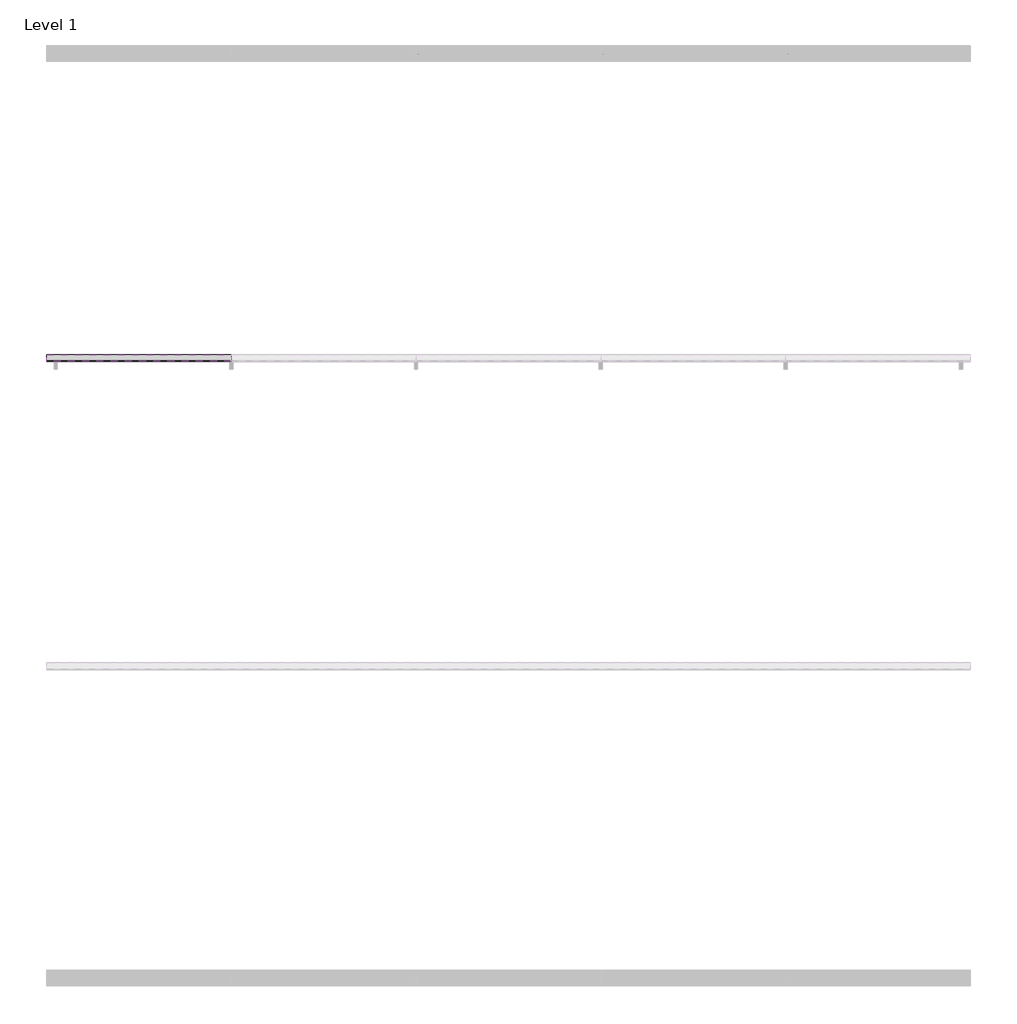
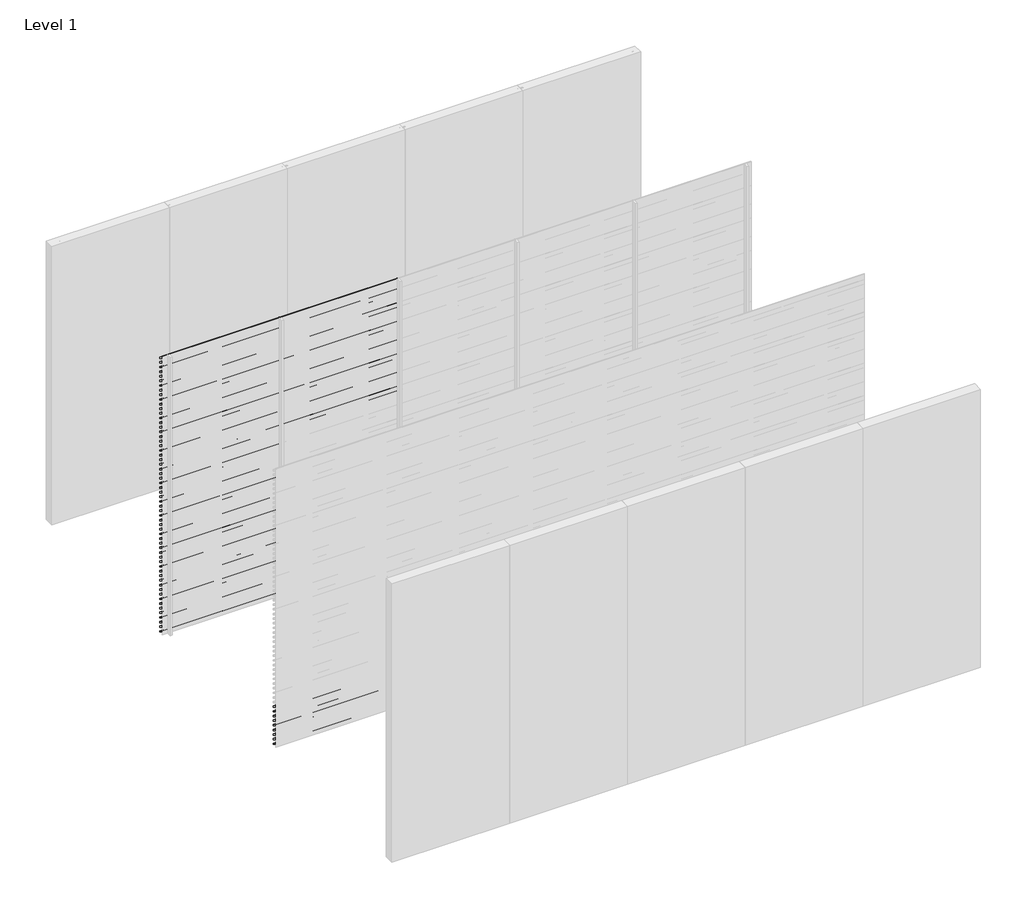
# One storey, part 10 of 16: 94 proxies.
"""IFC4 building model written with IfcOpenShell, lengths in millimetres."""

from ifc_helpers import new_model, si_unit, frame, origin, place, context, project, spatial, polyline, outline, extrude, element, save

model = new_model("IFC4")

# Units and contexts
model_context = context("Model", 3, world=origin())
ifc_project = project(units=[si_unit("LENGTHUNIT", "METRE", prefix="MILLI")], contexts=[model_context])

# Site, building, storey
site = spatial("IfcSite", under=ifc_project)
building = spatial("IfcBuilding", under=site)
storey = spatial("IfcBuildingStorey", under=building, Name="Level 1", Elevation=0.0)

# Proxies
placement = place(None, origin())
element("IfcBuildingElementProxy", 1, Name="Wall Sweeps", at=placement, inside=storey, context=model_context, shape_type="SweptSolid", body=[
    extrude(outline(polyline([(-5995.0, 3000.0), (-5995.0, 2989.6352854), (-5954.0, 2965.0), (-5954.0, 2950.0), (-5997.0, 2975.8370066), (-5997.0, 3000.0), (-5995.0, 3000.0)])), frame((0.0, 0.0, 0.0), z_axis=(1.0, 0.0, 0.0), x_axis=(0.0, 1.0, 0.0)), (0.0, 0.0, 1.0), 1200.0),
])
element("IfcBuildingElementProxy", 2, Name="Wall Sweeps", at=placement, inside=storey, context=model_context, shape_type="SweptSolid", body=[
    extrude(outline(polyline([(-5995.0, 2950.0), (-5995.0, 2939.6352854), (-5954.0, 2915.0), (-5954.0, 2900.0), (-5997.0, 2925.8370066), (-5997.0, 2950.0), (-5995.0, 2950.0)])), frame((0.0, 0.0, 0.0), z_axis=(1.0, 0.0, 0.0), x_axis=(0.0, 1.0, 0.0)), (0.0, 0.0, 1.0), 1200.0),
])
element("IfcBuildingElementProxy", 3, Name="Wall Sweeps", at=placement, inside=storey, context=model_context, shape_type="SweptSolid", body=[
    extrude(outline(polyline([(-5995.0, 2900.0), (-5995.0, 2889.6352854), (-5954.0, 2865.0), (-5954.0, 2850.0), (-5997.0, 2875.8370066), (-5997.0, 2900.0), (-5995.0, 2900.0)])), frame((0.0, 0.0, 0.0), z_axis=(1.0, 0.0, 0.0), x_axis=(0.0, 1.0, 0.0)), (0.0, 0.0, 1.0), 1200.0),
])
element("IfcBuildingElementProxy", 4, Name="Wall Sweeps", at=placement, inside=storey, context=model_context, shape_type="SweptSolid", body=[
    extrude(outline(polyline([(-5995.0, 2850.0), (-5995.0, 2839.6352854), (-5954.0, 2815.0), (-5954.0, 2800.0), (-5997.0, 2825.8370066), (-5997.0, 2850.0), (-5995.0, 2850.0)])), frame((0.0, 0.0, 0.0), z_axis=(1.0, 0.0, 0.0), x_axis=(0.0, 1.0, 0.0)), (0.0, 0.0, 1.0), 1200.0),
])
element("IfcBuildingElementProxy", 5, Name="Wall Sweeps", at=placement, inside=storey, context=model_context, shape_type="SweptSolid", body=[
    extrude(outline(polyline([(-5995.0, 2800.0), (-5995.0, 2789.6352854), (-5954.0, 2765.0), (-5954.0, 2750.0), (-5997.0, 2775.8370066), (-5997.0, 2800.0), (-5995.0, 2800.0)])), frame((0.0, 0.0, 0.0), z_axis=(1.0, 0.0, 0.0), x_axis=(0.0, 1.0, 0.0)), (0.0, 0.0, 1.0), 1200.0),
])
element("IfcBuildingElementProxy", 6, Name="Wall Sweeps", at=placement, inside=storey, context=model_context, shape_type="SweptSolid", body=[
    extrude(outline(polyline([(-5995.0, 2750.0), (-5995.0, 2739.6352854), (-5954.0, 2715.0), (-5954.0, 2700.0), (-5997.0, 2725.8370066), (-5997.0, 2750.0), (-5995.0, 2750.0)])), frame((0.0, 0.0, 0.0), z_axis=(1.0, 0.0, 0.0), x_axis=(0.0, 1.0, 0.0)), (0.0, 0.0, 1.0), 1200.0),
])
element("IfcBuildingElementProxy", 7, Name="Wall Sweeps", at=placement, inside=storey, context=model_context, shape_type="SweptSolid", body=[
    extrude(outline(polyline([(-5995.0, 2700.0), (-5995.0, 2689.6352854), (-5954.0, 2665.0), (-5954.0, 2650.0), (-5997.0, 2675.8370066), (-5997.0, 2700.0), (-5995.0, 2700.0)])), frame((0.0, 0.0, 0.0), z_axis=(1.0, 0.0, 0.0), x_axis=(0.0, 1.0, 0.0)), (0.0, 0.0, 1.0), 1200.0),
])
element("IfcBuildingElementProxy", 8, Name="Wall Sweeps", at=placement, inside=storey, context=model_context, shape_type="SweptSolid", body=[
    extrude(outline(polyline([(-5995.0, 2650.0), (-5995.0, 2639.6352854), (-5954.0, 2615.0), (-5954.0, 2600.0), (-5997.0, 2625.8370066), (-5997.0, 2650.0), (-5995.0, 2650.0)])), frame((0.0, 0.0, 0.0), z_axis=(1.0, 0.0, 0.0), x_axis=(0.0, 1.0, 0.0)), (0.0, 0.0, 1.0), 1200.0),
])
element("IfcBuildingElementProxy", 9, Name="Wall Sweeps", at=placement, inside=storey, context=model_context, shape_type="SweptSolid", body=[
    extrude(outline(polyline([(-5995.0, 2600.0), (-5995.0, 2589.6352854), (-5954.0, 2565.0), (-5954.0, 2550.0), (-5997.0, 2575.8370066), (-5997.0, 2600.0), (-5995.0, 2600.0)])), frame((0.0, 0.0, 0.0), z_axis=(1.0, 0.0, 0.0), x_axis=(0.0, 1.0, 0.0)), (0.0, 0.0, 1.0), 1200.0),
])
element("IfcBuildingElementProxy", 10, Name="Wall Sweeps", at=placement, inside=storey, context=model_context, shape_type="SweptSolid", body=[
    extrude(outline(polyline([(-5995.0, 2550.0), (-5995.0, 2539.6352854), (-5954.0, 2515.0), (-5954.0, 2500.0), (-5997.0, 2525.8370066), (-5997.0, 2550.0), (-5995.0, 2550.0)])), frame((0.0, 0.0, 0.0), z_axis=(1.0, 0.0, 0.0), x_axis=(0.0, 1.0, 0.0)), (0.0, 0.0, 1.0), 1200.0),
])
element("IfcBuildingElementProxy", 11, Name="Wall Sweeps", at=placement, inside=storey, context=model_context, shape_type="SweptSolid", body=[
    extrude(outline(polyline([(-5995.0, 2500.0), (-5995.0, 2489.6352854), (-5954.0, 2465.0), (-5954.0, 2450.0), (-5997.0, 2475.8370066), (-5997.0, 2500.0), (-5995.0, 2500.0)])), frame((0.0, 0.0, 0.0), z_axis=(1.0, 0.0, 0.0), x_axis=(0.0, 1.0, 0.0)), (0.0, 0.0, 1.0), 1200.0),
])
element("IfcBuildingElementProxy", 12, Name="Wall Sweeps", at=placement, inside=storey, context=model_context, shape_type="SweptSolid", body=[
    extrude(outline(polyline([(-5995.0, 2450.0), (-5995.0, 2439.6352854), (-5954.0, 2415.0), (-5954.0, 2400.0), (-5997.0, 2425.8370066), (-5997.0, 2450.0), (-5995.0, 2450.0)])), frame((0.0, 0.0, 0.0), z_axis=(1.0, 0.0, 0.0), x_axis=(0.0, 1.0, 0.0)), (0.0, 0.0, 1.0), 1200.0),
])
element("IfcBuildingElementProxy", 13, Name="Wall Sweeps", at=placement, inside=storey, context=model_context, shape_type="SweptSolid", body=[
    extrude(outline(polyline([(-5995.0, 2400.0), (-5995.0, 2389.6352854), (-5954.0, 2365.0), (-5954.0, 2350.0), (-5997.0, 2375.8370066), (-5997.0, 2400.0), (-5995.0, 2400.0)])), frame((0.0, 0.0, 0.0), z_axis=(1.0, 0.0, 0.0), x_axis=(0.0, 1.0, 0.0)), (0.0, 0.0, 1.0), 1200.0),
])
element("IfcBuildingElementProxy", 14, Name="Wall Sweeps", at=placement, inside=storey, context=model_context, shape_type="SweptSolid", body=[
    extrude(outline(polyline([(-5995.0, 2350.0), (-5995.0, 2339.6352854), (-5954.0, 2315.0), (-5954.0, 2300.0), (-5997.0, 2325.8370066), (-5997.0, 2350.0), (-5995.0, 2350.0)])), frame((0.0, 0.0, 0.0), z_axis=(1.0, 0.0, 0.0), x_axis=(0.0, 1.0, 0.0)), (0.0, 0.0, 1.0), 1200.0),
])
element("IfcBuildingElementProxy", 15, Name="Wall Sweeps", at=placement, inside=storey, context=model_context, shape_type="SweptSolid", body=[
    extrude(outline(polyline([(-5995.0, 2300.0), (-5995.0, 2289.6352854), (-5954.0, 2265.0), (-5954.0, 2250.0), (-5997.0, 2275.8370066), (-5997.0, 2300.0), (-5995.0, 2300.0)])), frame((0.0, 0.0, 0.0), z_axis=(1.0, 0.0, 0.0), x_axis=(0.0, 1.0, 0.0)), (0.0, 0.0, 1.0), 1200.0),
])
element("IfcBuildingElementProxy", 16, Name="Wall Sweeps", at=placement, inside=storey, context=model_context, shape_type="SweptSolid", body=[
    extrude(outline(polyline([(-5995.0, 2250.0), (-5995.0, 2239.6352854), (-5954.0, 2215.0), (-5954.0, 2200.0), (-5997.0, 2225.8370066), (-5997.0, 2250.0), (-5995.0, 2250.0)])), frame((0.0, 0.0, 0.0), z_axis=(1.0, 0.0, 0.0), x_axis=(0.0, 1.0, 0.0)), (0.0, 0.0, 1.0), 1200.0),
])
element("IfcBuildingElementProxy", 17, Name="Wall Sweeps", at=placement, inside=storey, context=model_context, shape_type="SweptSolid", body=[
    extrude(outline(polyline([(-5995.0, 2200.0), (-5995.0, 2189.6352854), (-5954.0, 2165.0), (-5954.0, 2150.0), (-5997.0, 2175.8370066), (-5997.0, 2200.0), (-5995.0, 2200.0)])), frame((0.0, 0.0, 0.0), z_axis=(1.0, 0.0, 0.0), x_axis=(0.0, 1.0, 0.0)), (0.0, 0.0, 1.0), 1200.0),
])
element("IfcBuildingElementProxy", 18, Name="Wall Sweeps", at=placement, inside=storey, context=model_context, shape_type="SweptSolid", body=[
    extrude(outline(polyline([(-5995.0, 2150.0), (-5995.0, 2139.6352854), (-5954.0, 2115.0), (-5954.0, 2100.0), (-5997.0, 2125.8370066), (-5997.0, 2150.0), (-5995.0, 2150.0)])), frame((0.0, 0.0, 0.0), z_axis=(1.0, 0.0, 0.0), x_axis=(0.0, 1.0, 0.0)), (0.0, 0.0, 1.0), 1200.0),
])
element("IfcBuildingElementProxy", 19, Name="Wall Sweeps", at=placement, inside=storey, context=model_context, shape_type="SweptSolid", body=[
    extrude(outline(polyline([(-5995.0, 2100.0), (-5995.0, 2089.6352854), (-5954.0, 2065.0), (-5954.0, 2050.0), (-5997.0, 2075.8370066), (-5997.0, 2100.0), (-5995.0, 2100.0)])), frame((0.0, 0.0, 0.0), z_axis=(1.0, 0.0, 0.0), x_axis=(0.0, 1.0, 0.0)), (0.0, 0.0, 1.0), 1200.0),
])
element("IfcBuildingElementProxy", 20, Name="Wall Sweeps", at=placement, inside=storey, context=model_context, shape_type="SweptSolid", body=[
    extrude(outline(polyline([(-5995.0, 2050.0), (-5995.0, 2039.6352854), (-5954.0, 2015.0), (-5954.0, 2000.0), (-5997.0, 2025.8370066), (-5997.0, 2050.0), (-5995.0, 2050.0)])), frame((0.0, 0.0, 0.0), z_axis=(1.0, 0.0, 0.0), x_axis=(0.0, 1.0, 0.0)), (0.0, 0.0, 1.0), 1200.0),
])
element("IfcBuildingElementProxy", 21, Name="Wall Sweeps", at=placement, inside=storey, context=model_context, shape_type="SweptSolid", body=[
    extrude(outline(polyline([(-5995.0, 2000.0), (-5995.0, 1989.6352854), (-5954.0, 1965.0), (-5954.0, 1950.0), (-5997.0, 1975.8370066), (-5997.0, 2000.0), (-5995.0, 2000.0)])), frame((0.0, 0.0, 0.0), z_axis=(1.0, 0.0, 0.0), x_axis=(0.0, 1.0, 0.0)), (0.0, 0.0, 1.0), 1200.0),
])
element("IfcBuildingElementProxy", 22, Name="Wall Sweeps", at=placement, inside=storey, context=model_context, shape_type="SweptSolid", body=[
    extrude(outline(polyline([(-5995.0, 1950.0), (-5995.0, 1939.6352854), (-5954.0, 1915.0), (-5954.0, 1900.0), (-5997.0, 1925.8370066), (-5997.0, 1950.0), (-5995.0, 1950.0)])), frame((0.0, 0.0, 0.0), z_axis=(1.0, 0.0, 0.0), x_axis=(0.0, 1.0, 0.0)), (0.0, 0.0, 1.0), 1200.0),
])
element("IfcBuildingElementProxy", 23, Name="Wall Sweeps", at=placement, inside=storey, context=model_context, shape_type="SweptSolid", body=[
    extrude(outline(polyline([(-5995.0, 1900.0), (-5995.0, 1889.6352854), (-5954.0, 1865.0), (-5954.0, 1850.0), (-5997.0, 1875.8370066), (-5997.0, 1900.0), (-5995.0, 1900.0)])), frame((0.0, 0.0, 0.0), z_axis=(1.0, 0.0, 0.0), x_axis=(0.0, 1.0, 0.0)), (0.0, 0.0, 1.0), 1200.0),
])
element("IfcBuildingElementProxy", 24, Name="Wall Sweeps", at=placement, inside=storey, context=model_context, shape_type="SweptSolid", body=[
    extrude(outline(polyline([(-5995.0, 1850.0), (-5995.0, 1839.6352854), (-5954.0, 1815.0), (-5954.0, 1800.0), (-5997.0, 1825.8370066), (-5997.0, 1850.0), (-5995.0, 1850.0)])), frame((0.0, 0.0, 0.0), z_axis=(1.0, 0.0, 0.0), x_axis=(0.0, 1.0, 0.0)), (0.0, 0.0, 1.0), 1200.0),
])
element("IfcBuildingElementProxy", 25, Name="Wall Sweeps", at=placement, inside=storey, context=model_context, shape_type="SweptSolid", body=[
    extrude(outline(polyline([(-5995.0, 1800.0), (-5995.0, 1789.6352854), (-5954.0, 1765.0), (-5954.0, 1750.0), (-5997.0, 1775.8370066), (-5997.0, 1800.0), (-5995.0, 1800.0)])), frame((0.0, 0.0, 0.0), z_axis=(1.0, 0.0, 0.0), x_axis=(0.0, 1.0, 0.0)), (0.0, 0.0, 1.0), 1200.0),
])
element("IfcBuildingElementProxy", 26, Name="Wall Sweeps", at=placement, inside=storey, context=model_context, shape_type="SweptSolid", body=[
    extrude(outline(polyline([(-5995.0, 1750.0), (-5995.0, 1739.6352854), (-5954.0, 1715.0), (-5954.0, 1700.0), (-5997.0, 1725.8370066), (-5997.0, 1750.0), (-5995.0, 1750.0)])), frame((0.0, 0.0, 0.0), z_axis=(1.0, 0.0, 0.0), x_axis=(0.0, 1.0, 0.0)), (0.0, 0.0, 1.0), 1200.0),
])
element("IfcBuildingElementProxy", 27, Name="Wall Sweeps", at=placement, inside=storey, context=model_context, shape_type="SweptSolid", body=[
    extrude(outline(polyline([(-5995.0, 1700.0), (-5995.0, 1689.6352854), (-5954.0, 1665.0), (-5954.0, 1650.0), (-5997.0, 1675.8370066), (-5997.0, 1700.0), (-5995.0, 1700.0)])), frame((0.0, 0.0, 0.0), z_axis=(1.0, 0.0, 0.0), x_axis=(0.0, 1.0, 0.0)), (0.0, 0.0, 1.0), 1200.0),
])
element("IfcBuildingElementProxy", 28, Name="Wall Sweeps", at=placement, inside=storey, context=model_context, shape_type="SweptSolid", body=[
    extrude(outline(polyline([(-5995.0, 1650.0), (-5995.0, 1639.6352854), (-5954.0, 1615.0), (-5954.0, 1600.0), (-5997.0, 1625.8370066), (-5997.0, 1650.0), (-5995.0, 1650.0)])), frame((0.0, 0.0, 0.0), z_axis=(1.0, 0.0, 0.0), x_axis=(0.0, 1.0, 0.0)), (0.0, 0.0, 1.0), 1200.0),
])
element("IfcBuildingElementProxy", 29, Name="Wall Sweeps", at=placement, inside=storey, context=model_context, shape_type="SweptSolid", body=[
    extrude(outline(polyline([(-5995.0, 1600.0), (-5995.0, 1589.6352854), (-5954.0, 1565.0), (-5954.0, 1550.0), (-5997.0, 1575.8370066), (-5997.0, 1600.0), (-5995.0, 1600.0)])), frame((0.0, 0.0, 0.0), z_axis=(1.0, 0.0, 0.0), x_axis=(0.0, 1.0, 0.0)), (0.0, 0.0, 1.0), 1200.0),
])
element("IfcBuildingElementProxy", 30, Name="Wall Sweeps", at=placement, inside=storey, context=model_context, shape_type="SweptSolid", body=[
    extrude(outline(polyline([(-5995.0, 1550.0), (-5995.0, 1539.6352854), (-5954.0, 1515.0), (-5954.0, 1500.0), (-5997.0, 1525.8370066), (-5997.0, 1550.0), (-5995.0, 1550.0)])), frame((0.0, 0.0, 0.0), z_axis=(1.0, 0.0, 0.0), x_axis=(0.0, 1.0, 0.0)), (0.0, 0.0, 1.0), 1200.0),
])
element("IfcBuildingElementProxy", 31, Name="Wall Sweeps", at=placement, inside=storey, context=model_context, shape_type="SweptSolid", body=[
    extrude(outline(polyline([(-5995.0, 1500.0), (-5995.0, 1489.6352854), (-5954.0, 1465.0), (-5954.0, 1450.0), (-5997.0, 1475.8370066), (-5997.0, 1500.0), (-5995.0, 1500.0)])), frame((0.0, 0.0, 0.0), z_axis=(1.0, 0.0, 0.0), x_axis=(0.0, 1.0, 0.0)), (0.0, 0.0, 1.0), 1200.0),
])
element("IfcBuildingElementProxy", 32, Name="Wall Sweeps", at=placement, inside=storey, context=model_context, shape_type="SweptSolid", body=[
    extrude(outline(polyline([(-5995.0, 1450.0), (-5995.0, 1439.6352854), (-5954.0, 1415.0), (-5954.0, 1400.0), (-5997.0, 1425.8370066), (-5997.0, 1450.0), (-5995.0, 1450.0)])), frame((0.0, 0.0, 0.0), z_axis=(1.0, 0.0, 0.0), x_axis=(0.0, 1.0, 0.0)), (0.0, 0.0, 1.0), 1200.0),
])
element("IfcBuildingElementProxy", 33, Name="Wall Sweeps", at=placement, inside=storey, context=model_context, shape_type="SweptSolid", body=[
    extrude(outline(polyline([(-5995.0, 1400.0), (-5995.0, 1389.6352854), (-5954.0, 1365.0), (-5954.0, 1350.0), (-5997.0, 1375.8370066), (-5997.0, 1400.0), (-5995.0, 1400.0)])), frame((0.0, 0.0, 0.0), z_axis=(1.0, 0.0, 0.0), x_axis=(0.0, 1.0, 0.0)), (0.0, 0.0, 1.0), 1200.0),
])
element("IfcBuildingElementProxy", 34, Name="Wall Sweeps", at=placement, inside=storey, context=model_context, shape_type="SweptSolid", body=[
    extrude(outline(polyline([(-5995.0, 1350.0), (-5995.0, 1339.6352854), (-5954.0, 1315.0), (-5954.0, 1300.0), (-5997.0, 1325.8370066), (-5997.0, 1350.0), (-5995.0, 1350.0)])), frame((0.0, 0.0, 0.0), z_axis=(1.0, 0.0, 0.0), x_axis=(0.0, 1.0, 0.0)), (0.0, 0.0, 1.0), 1200.0),
])
element("IfcBuildingElementProxy", 35, Name="Wall Sweeps", at=placement, inside=storey, context=model_context, shape_type="SweptSolid", body=[
    extrude(outline(polyline([(-5995.0, 1300.0), (-5995.0, 1289.6352854), (-5954.0, 1265.0), (-5954.0, 1250.0), (-5997.0, 1275.8370066), (-5997.0, 1300.0), (-5995.0, 1300.0)])), frame((0.0, 0.0, 0.0), z_axis=(1.0, 0.0, 0.0), x_axis=(0.0, 1.0, 0.0)), (0.0, 0.0, 1.0), 1200.0),
])
element("IfcBuildingElementProxy", 36, Name="Wall Sweeps", at=placement, inside=storey, context=model_context, shape_type="SweptSolid", body=[
    extrude(outline(polyline([(-5995.0, 1250.0), (-5995.0, 1239.6352854), (-5954.0, 1215.0), (-5954.0, 1200.0), (-5997.0, 1225.8370066), (-5997.0, 1250.0), (-5995.0, 1250.0)])), frame((0.0, 0.0, 0.0), z_axis=(1.0, 0.0, 0.0), x_axis=(0.0, 1.0, 0.0)), (0.0, 0.0, 1.0), 1200.0),
])
element("IfcBuildingElementProxy", 37, Name="Wall Sweeps", at=placement, inside=storey, context=model_context, shape_type="SweptSolid", body=[
    extrude(outline(polyline([(-5995.0, 1200.0), (-5995.0, 1189.6352854), (-5954.0, 1165.0), (-5954.0, 1150.0), (-5997.0, 1175.8370066), (-5997.0, 1200.0), (-5995.0, 1200.0)])), frame((0.0, 0.0, 0.0), z_axis=(1.0, 0.0, 0.0), x_axis=(0.0, 1.0, 0.0)), (0.0, 0.0, 1.0), 1200.0),
])
element("IfcBuildingElementProxy", 38, Name="Wall Sweeps", at=placement, inside=storey, context=model_context, shape_type="SweptSolid", body=[
    extrude(outline(polyline([(-5995.0, 1150.0), (-5995.0, 1139.6352854), (-5954.0, 1115.0), (-5954.0, 1100.0), (-5997.0, 1125.8370066), (-5997.0, 1150.0), (-5995.0, 1150.0)])), frame((0.0, 0.0, 0.0), z_axis=(1.0, 0.0, 0.0), x_axis=(0.0, 1.0, 0.0)), (0.0, 0.0, 1.0), 1200.0),
])
element("IfcBuildingElementProxy", 39, Name="Wall Sweeps", at=placement, inside=storey, context=model_context, shape_type="SweptSolid", body=[
    extrude(outline(polyline([(-5995.0, 1100.0), (-5995.0, 1089.6352854), (-5954.0, 1065.0), (-5954.0, 1050.0), (-5997.0, 1075.8370066), (-5997.0, 1100.0), (-5995.0, 1100.0)])), frame((0.0, 0.0, 0.0), z_axis=(1.0, 0.0, 0.0), x_axis=(0.0, 1.0, 0.0)), (0.0, 0.0, 1.0), 1200.0),
])
element("IfcBuildingElementProxy", 40, Name="Wall Sweeps", at=placement, inside=storey, context=model_context, shape_type="SweptSolid", body=[
    extrude(outline(polyline([(-5995.0, 1050.0), (-5995.0, 1039.6352854), (-5954.0, 1015.0), (-5954.0, 1000.0), (-5997.0, 1025.8370066), (-5997.0, 1050.0), (-5995.0, 1050.0)])), frame((0.0, 0.0, 0.0), z_axis=(1.0, 0.0, 0.0), x_axis=(0.0, 1.0, 0.0)), (0.0, 0.0, 1.0), 1200.0),
])
element("IfcBuildingElementProxy", 41, Name="Wall Sweeps", at=placement, inside=storey, context=model_context, shape_type="SweptSolid", body=[
    extrude(outline(polyline([(-5995.0, 1000.0), (-5995.0, 989.6352854), (-5954.0, 965.0), (-5954.0, 950.0), (-5997.0, 975.8370066), (-5997.0, 1000.0), (-5995.0, 1000.0)])), frame((0.0, 0.0, 0.0), z_axis=(1.0, 0.0, 0.0), x_axis=(0.0, 1.0, 0.0)), (0.0, 0.0, 1.0), 1200.0),
])
element("IfcBuildingElementProxy", 42, Name="Wall Sweeps", at=placement, inside=storey, context=model_context, shape_type="SweptSolid", body=[
    extrude(outline(polyline([(-5995.0, 950.0), (-5995.0, 939.6352854), (-5954.0, 915.0), (-5954.0, 900.0), (-5997.0, 925.8370066), (-5997.0, 950.0), (-5995.0, 950.0)])), frame((0.0, 0.0, 0.0), z_axis=(1.0, 0.0, 0.0), x_axis=(0.0, 1.0, 0.0)), (0.0, 0.0, 1.0), 1200.0),
])
element("IfcBuildingElementProxy", 43, Name="Wall Sweeps", at=placement, inside=storey, context=model_context, shape_type="SweptSolid", body=[
    extrude(outline(polyline([(-5995.0, 900.0), (-5995.0, 889.6352854), (-5954.0, 865.0), (-5954.0, 850.0), (-5997.0, 875.8370066), (-5997.0, 900.0), (-5995.0, 900.0)])), frame((0.0, 0.0, 0.0), z_axis=(1.0, 0.0, 0.0), x_axis=(0.0, 1.0, 0.0)), (0.0, 0.0, 1.0), 1200.0),
])
element("IfcBuildingElementProxy", 44, Name="Wall Sweeps", at=placement, inside=storey, context=model_context, shape_type="SweptSolid", body=[
    extrude(outline(polyline([(-5995.0, 850.0), (-5995.0, 839.6352854), (-5954.0, 815.0), (-5954.0, 800.0), (-5997.0, 825.8370066), (-5997.0, 850.0), (-5995.0, 850.0)])), frame((0.0, 0.0, 0.0), z_axis=(1.0, 0.0, 0.0), x_axis=(0.0, 1.0, 0.0)), (0.0, 0.0, 1.0), 1200.0),
])
element("IfcBuildingElementProxy", 45, Name="Wall Sweeps", at=placement, inside=storey, context=model_context, shape_type="SweptSolid", body=[
    extrude(outline(polyline([(-5995.0, 800.0), (-5995.0, 789.6352854), (-5954.0, 765.0), (-5954.0, 750.0), (-5997.0, 775.8370066), (-5997.0, 800.0), (-5995.0, 800.0)])), frame((0.0, 0.0, 0.0), z_axis=(1.0, 0.0, 0.0), x_axis=(0.0, 1.0, 0.0)), (0.0, 0.0, 1.0), 1200.0),
])
element("IfcBuildingElementProxy", 46, Name="Wall Sweeps", at=placement, inside=storey, context=model_context, shape_type="SweptSolid", body=[
    extrude(outline(polyline([(-5995.0, 750.0), (-5995.0, 739.6352854), (-5954.0, 715.0), (-5954.0, 700.0), (-5997.0, 725.8370066), (-5997.0, 750.0), (-5995.0, 750.0)])), frame((0.0, 0.0, 0.0), z_axis=(1.0, 0.0, 0.0), x_axis=(0.0, 1.0, 0.0)), (0.0, 0.0, 1.0), 1200.0),
])
element("IfcBuildingElementProxy", 47, Name="Wall Sweeps", at=placement, inside=storey, context=model_context, shape_type="SweptSolid", body=[
    extrude(outline(polyline([(-5995.0, 700.0), (-5995.0, 689.6352854), (-5954.0, 665.0), (-5954.0, 650.0), (-5997.0, 675.8370066), (-5997.0, 700.0), (-5995.0, 700.0)])), frame((0.0, 0.0, 0.0), z_axis=(1.0, 0.0, 0.0), x_axis=(0.0, 1.0, 0.0)), (0.0, 0.0, 1.0), 1200.0),
])
element("IfcBuildingElementProxy", 48, Name="Wall Sweeps", at=placement, inside=storey, context=model_context, shape_type="SweptSolid", body=[
    extrude(outline(polyline([(-5995.0, 650.0), (-5995.0, 639.6352854), (-5954.0, 615.0), (-5954.0, 600.0), (-5997.0, 625.8370066), (-5997.0, 650.0), (-5995.0, 650.0)])), frame((0.0, 0.0, 0.0), z_axis=(1.0, 0.0, 0.0), x_axis=(0.0, 1.0, 0.0)), (0.0, 0.0, 1.0), 1200.0),
])
element("IfcBuildingElementProxy", 49, Name="Wall Sweeps", at=placement, inside=storey, context=model_context, shape_type="SweptSolid", body=[
    extrude(outline(polyline([(-5995.0, 600.0), (-5995.0, 589.6352854), (-5954.0, 565.0), (-5954.0, 550.0), (-5997.0, 575.8370066), (-5997.0, 600.0), (-5995.0, 600.0)])), frame((0.0, 0.0, 0.0), z_axis=(1.0, 0.0, 0.0), x_axis=(0.0, 1.0, 0.0)), (0.0, 0.0, 1.0), 1200.0),
])
element("IfcBuildingElementProxy", 50, Name="Wall Sweeps", at=placement, inside=storey, context=model_context, shape_type="SweptSolid", body=[
    extrude(outline(polyline([(-5995.0, 550.0), (-5995.0, 539.6352854), (-5954.0, 515.0), (-5954.0, 500.0), (-5997.0, 525.8370066), (-5997.0, 550.0), (-5995.0, 550.0)])), frame((0.0, 0.0, 0.0), z_axis=(1.0, 0.0, 0.0), x_axis=(0.0, 1.0, 0.0)), (0.0, 0.0, 1.0), 1200.0),
])
element("IfcBuildingElementProxy", 51, Name="Wall Sweeps", at=placement, inside=storey, context=model_context, shape_type="SweptSolid", body=[
    extrude(outline(polyline([(-5995.0, 500.0), (-5995.0, 489.6352854), (-5954.0, 465.0), (-5954.0, 450.0), (-5997.0, 475.8370066), (-5997.0, 500.0), (-5995.0, 500.0)])), frame((0.0, 0.0, 0.0), z_axis=(1.0, 0.0, 0.0), x_axis=(0.0, 1.0, 0.0)), (0.0, 0.0, 1.0), 1200.0),
])
element("IfcBuildingElementProxy", 52, Name="Wall Sweeps", at=placement, inside=storey, context=model_context, shape_type="SweptSolid", body=[
    extrude(outline(polyline([(-5995.0, 450.0), (-5995.0, 439.6352854), (-5954.0, 415.0), (-5954.0, 400.0), (-5997.0, 425.8370066), (-5997.0, 450.0), (-5995.0, 450.0)])), frame((0.0, 0.0, 0.0), z_axis=(1.0, 0.0, 0.0), x_axis=(0.0, 1.0, 0.0)), (0.0, 0.0, 1.0), 1200.0),
])
element("IfcBuildingElementProxy", 53, Name="Wall Sweeps", at=placement, inside=storey, context=model_context, shape_type="SweptSolid", body=[
    extrude(outline(polyline([(-5995.0, 400.0), (-5995.0, 389.6352854), (-5954.0, 365.0), (-5954.0, 350.0), (-5997.0, 375.8370066), (-5997.0, 400.0), (-5995.0, 400.0)])), frame((0.0, 0.0, 0.0), z_axis=(1.0, 0.0, 0.0), x_axis=(0.0, 1.0, 0.0)), (0.0, 0.0, 1.0), 1200.0),
])
element("IfcBuildingElementProxy", 54, Name="Wall Sweeps", at=placement, inside=storey, context=model_context, shape_type="SweptSolid", body=[
    extrude(outline(polyline([(-5995.0, 350.0), (-5995.0, 339.6352854), (-5954.0, 315.0), (-5954.0, 300.0), (-5997.0, 325.8370066), (-5997.0, 350.0), (-5995.0, 350.0)])), frame((0.0, 0.0, 0.0), z_axis=(1.0, 0.0, 0.0), x_axis=(0.0, 1.0, 0.0)), (0.0, 0.0, 1.0), 1200.0),
])
element("IfcBuildingElementProxy", 55, Name="Wall Sweeps", at=placement, inside=storey, context=model_context, shape_type="SweptSolid", body=[
    extrude(outline(polyline([(-5995.0, 300.0), (-5995.0, 289.6352854), (-5954.0, 265.0), (-5954.0, 250.0), (-5997.0, 275.8370066), (-5997.0, 300.0), (-5995.0, 300.0)])), frame((0.0, 0.0, 0.0), z_axis=(1.0, 0.0, 0.0), x_axis=(0.0, 1.0, 0.0)), (0.0, 0.0, 1.0), 1200.0),
])
element("IfcBuildingElementProxy", 56, Name="Wall Sweeps", at=placement, inside=storey, context=model_context, shape_type="SweptSolid", body=[
    extrude(outline(polyline([(-5995.0, 250.0), (-5995.0, 239.6352854), (-5954.0, 215.0), (-5954.0, 200.0), (-5997.0, 225.8370066), (-5997.0, 250.0), (-5995.0, 250.0)])), frame((0.0, 0.0, 0.0), z_axis=(1.0, 0.0, 0.0), x_axis=(0.0, 1.0, 0.0)), (0.0, 0.0, 1.0), 1200.0),
])
element("IfcBuildingElementProxy", 57, Name="Wall Sweeps", at=placement, inside=storey, context=model_context, shape_type="SweptSolid", body=[
    extrude(outline(polyline([(-5995.0, 200.0), (-5995.0, 189.6352854), (-5954.0, 165.0), (-5954.0, 150.0), (-5997.0, 175.8370066), (-5997.0, 200.0), (-5995.0, 200.0)])), frame((0.0, 0.0, 0.0), z_axis=(1.0, 0.0, 0.0), x_axis=(0.0, 1.0, 0.0)), (0.0, 0.0, 1.0), 1200.0),
])
element("IfcBuildingElementProxy", 58, Name="Wall Sweeps", at=placement, inside=storey, context=model_context, shape_type="SweptSolid", body=[
    extrude(outline(polyline([(-5995.0, 150.0), (-5995.0, 139.6352854), (-5954.0, 115.0), (-5954.0, 100.0), (-5997.0, 125.8370066), (-5997.0, 150.0), (-5995.0, 150.0)])), frame((0.0, 0.0, 0.0), z_axis=(1.0, 0.0, 0.0), x_axis=(0.0, 1.0, 0.0)), (0.0, 0.0, 1.0), 1200.0),
])
element("IfcBuildingElementProxy", 59, Name="Wall Sweeps", at=placement, inside=storey, context=model_context, shape_type="SweptSolid", body=[
    extrude(outline(polyline([(-5995.0, 100.0), (-5995.0, 89.6352854), (-5954.0, 65.0), (-5954.0, 50.0), (-5997.0, 75.8370066), (-5997.0, 100.0), (-5995.0, 100.0)])), frame((0.0, 0.0, 0.0), z_axis=(1.0, 0.0, 0.0), x_axis=(0.0, 1.0, 0.0)), (0.0, 0.0, 1.0), 1200.0),
])
element("IfcBuildingElementProxy", 60, Name="Wall Sweeps", at=placement, inside=storey, context=model_context, shape_type="SweptSolid", body=[
    extrude(outline(polyline([(-5995.0, 50.0), (-5995.0, 39.6352854), (-5954.0, 15.0), (-5954.0, 0.0), (-5997.0, 25.8370066), (-5997.0, 50.0), (-5995.0, 50.0)])), frame((0.0, 0.0, 0.0), z_axis=(1.0, 0.0, 0.0), x_axis=(0.0, 1.0, 0.0)), (0.0, 0.0, 1.0), 1200.0),
])
element("IfcBuildingElementProxy", 61, Name="Wall Sweeps", at=placement, inside=storey, context=model_context, shape_type="SweptSolid", body=[
    extrude(outline(polyline([(-5995.0, 3000.0), (-5995.0, 2989.6352854), (-5954.0, 2965.0), (-5954.0, 2950.0), (-5997.0, 2975.8370066), (-5997.0, 3000.0), (-5995.0, 3000.0)])), frame((1200.0, 0.0, 0.0), z_axis=(1.0, 0.0, 0.0), x_axis=(0.0, 1.0, 0.0)), (0.0, 0.0, 1.0), 1200.0),
])
element("IfcBuildingElementProxy", 62, Name="Wall Sweeps", at=placement, inside=storey, context=model_context, shape_type="SweptSolid", body=[
    extrude(outline(polyline([(-5995.0, 2950.0), (-5995.0, 2939.6352854), (-5954.0, 2915.0), (-5954.0, 2900.0), (-5997.0, 2925.8370066), (-5997.0, 2950.0), (-5995.0, 2950.0)])), frame((1200.0, 0.0, 0.0), z_axis=(1.0, 0.0, 0.0), x_axis=(0.0, 1.0, 0.0)), (0.0, 0.0, 1.0), 1200.0),
])
element("IfcBuildingElementProxy", 63, Name="Wall Sweeps", at=placement, inside=storey, context=model_context, shape_type="SweptSolid", body=[
    extrude(outline(polyline([(-5995.0, 2900.0), (-5995.0, 2889.6352854), (-5954.0, 2865.0), (-5954.0, 2850.0), (-5997.0, 2875.8370066), (-5997.0, 2900.0), (-5995.0, 2900.0)])), frame((1200.0, 0.0, 0.0), z_axis=(1.0, 0.0, 0.0), x_axis=(0.0, 1.0, 0.0)), (0.0, 0.0, 1.0), 1200.0),
])
element("IfcBuildingElementProxy", 64, Name="Wall Sweeps", at=placement, inside=storey, context=model_context, shape_type="SweptSolid", body=[
    extrude(outline(polyline([(-5995.0, 2850.0), (-5995.0, 2839.6352854), (-5954.0, 2815.0), (-5954.0, 2800.0), (-5997.0, 2825.8370066), (-5997.0, 2850.0), (-5995.0, 2850.0)])), frame((1200.0, 0.0, 0.0), z_axis=(1.0, 0.0, 0.0), x_axis=(0.0, 1.0, 0.0)), (0.0, 0.0, 1.0), 1200.0),
])
element("IfcBuildingElementProxy", 65, Name="Wall Sweeps", at=placement, inside=storey, context=model_context, shape_type="SweptSolid", body=[
    extrude(outline(polyline([(-5995.0, 2800.0), (-5995.0, 2789.6352854), (-5954.0, 2765.0), (-5954.0, 2750.0), (-5997.0, 2775.8370066), (-5997.0, 2800.0), (-5995.0, 2800.0)])), frame((1200.0, 0.0, 0.0), z_axis=(1.0, 0.0, 0.0), x_axis=(0.0, 1.0, 0.0)), (0.0, 0.0, 1.0), 1200.0),
])
element("IfcBuildingElementProxy", 66, Name="Wall Sweeps", at=placement, inside=storey, context=model_context, shape_type="SweptSolid", body=[
    extrude(outline(polyline([(-5995.0, 2750.0), (-5995.0, 2739.6352854), (-5954.0, 2715.0), (-5954.0, 2700.0), (-5997.0, 2725.8370066), (-5997.0, 2750.0), (-5995.0, 2750.0)])), frame((1200.0, 0.0, 0.0), z_axis=(1.0, 0.0, 0.0), x_axis=(0.0, 1.0, 0.0)), (0.0, 0.0, 1.0), 1200.0),
])
element("IfcBuildingElementProxy", 67, Name="Wall Sweeps", at=placement, inside=storey, context=model_context, shape_type="SweptSolid", body=[
    extrude(outline(polyline([(-5995.0, 2700.0), (-5995.0, 2689.6352854), (-5954.0, 2665.0), (-5954.0, 2650.0), (-5997.0, 2675.8370066), (-5997.0, 2700.0), (-5995.0, 2700.0)])), frame((1200.0, 0.0, 0.0), z_axis=(1.0, 0.0, 0.0), x_axis=(0.0, 1.0, 0.0)), (0.0, 0.0, 1.0), 1200.0),
])
element("IfcBuildingElementProxy", 68, Name="Wall Sweeps", at=placement, inside=storey, context=model_context, shape_type="SweptSolid", body=[
    extrude(outline(polyline([(-5995.0, 2650.0), (-5995.0, 2639.6352854), (-5954.0, 2615.0), (-5954.0, 2600.0), (-5997.0, 2625.8370066), (-5997.0, 2650.0), (-5995.0, 2650.0)])), frame((1200.0, 0.0, 0.0), z_axis=(1.0, 0.0, 0.0), x_axis=(0.0, 1.0, 0.0)), (0.0, 0.0, 1.0), 1200.0),
])
element("IfcBuildingElementProxy", 69, Name="Wall Sweeps", at=placement, inside=storey, context=model_context, shape_type="SweptSolid", body=[
    extrude(outline(polyline([(-5995.0, 2600.0), (-5995.0, 2589.6352854), (-5954.0, 2565.0), (-5954.0, 2550.0), (-5997.0, 2575.8370066), (-5997.0, 2600.0), (-5995.0, 2600.0)])), frame((1200.0, 0.0, 0.0), z_axis=(1.0, 0.0, 0.0), x_axis=(0.0, 1.0, 0.0)), (0.0, 0.0, 1.0), 1200.0),
])
element("IfcBuildingElementProxy", 70, Name="Wall Sweeps", at=placement, inside=storey, context=model_context, shape_type="SweptSolid", body=[
    extrude(outline(polyline([(-5995.0, 2550.0), (-5995.0, 2539.6352854), (-5954.0, 2515.0), (-5954.0, 2500.0), (-5997.0, 2525.8370066), (-5997.0, 2550.0), (-5995.0, 2550.0)])), frame((1200.0, 0.0, 0.0), z_axis=(1.0, 0.0, 0.0), x_axis=(0.0, 1.0, 0.0)), (0.0, 0.0, 1.0), 1200.0),
])
element("IfcBuildingElementProxy", 71, Name="Wall Sweeps", at=placement, inside=storey, context=model_context, shape_type="SweptSolid", body=[
    extrude(outline(polyline([(-5995.0, 2500.0), (-5995.0, 2489.6352854), (-5954.0, 2465.0), (-5954.0, 2450.0), (-5997.0, 2475.8370066), (-5997.0, 2500.0), (-5995.0, 2500.0)])), frame((1200.0, 0.0, 0.0), z_axis=(1.0, 0.0, 0.0), x_axis=(0.0, 1.0, 0.0)), (0.0, 0.0, 1.0), 1200.0),
])
element("IfcBuildingElementProxy", 72, Name="Wall Sweeps", at=placement, inside=storey, context=model_context, shape_type="SweptSolid", body=[
    extrude(outline(polyline([(-5995.0, 2450.0), (-5995.0, 2439.6352854), (-5954.0, 2415.0), (-5954.0, 2400.0), (-5997.0, 2425.8370066), (-5997.0, 2450.0), (-5995.0, 2450.0)])), frame((1200.0, 0.0, 0.0), z_axis=(1.0, 0.0, 0.0), x_axis=(0.0, 1.0, 0.0)), (0.0, 0.0, 1.0), 1200.0),
])
element("IfcBuildingElementProxy", 73, Name="Wall Sweeps", at=placement, inside=storey, context=model_context, shape_type="SweptSolid", body=[
    extrude(outline(polyline([(-5995.0, 2400.0), (-5995.0, 2389.6352854), (-5954.0, 2365.0), (-5954.0, 2350.0), (-5997.0, 2375.8370066), (-5997.0, 2400.0), (-5995.0, 2400.0)])), frame((1200.0, 0.0, 0.0), z_axis=(1.0, 0.0, 0.0), x_axis=(0.0, 1.0, 0.0)), (0.0, 0.0, 1.0), 1200.0),
])
element("IfcBuildingElementProxy", 74, Name="Wall Sweeps", at=placement, inside=storey, context=model_context, shape_type="SweptSolid", body=[
    extrude(outline(polyline([(-5995.0, 2350.0), (-5995.0, 2339.6352854), (-5954.0, 2315.0), (-5954.0, 2300.0), (-5997.0, 2325.8370066), (-5997.0, 2350.0), (-5995.0, 2350.0)])), frame((1200.0, 0.0, 0.0), z_axis=(1.0, 0.0, 0.0), x_axis=(0.0, 1.0, 0.0)), (0.0, 0.0, 1.0), 1200.0),
])
element("IfcBuildingElementProxy", 75, Name="Wall Sweeps", at=placement, inside=storey, context=model_context, shape_type="SweptSolid", body=[
    extrude(outline(polyline([(-5995.0, 2300.0), (-5995.0, 2289.6352854), (-5954.0, 2265.0), (-5954.0, 2250.0), (-5997.0, 2275.8370066), (-5997.0, 2300.0), (-5995.0, 2300.0)])), frame((1200.0, 0.0, 0.0), z_axis=(1.0, 0.0, 0.0), x_axis=(0.0, 1.0, 0.0)), (0.0, 0.0, 1.0), 1200.0),
])
element("IfcBuildingElementProxy", 76, Name="Wall Sweeps", at=placement, inside=storey, context=model_context, shape_type="SweptSolid", body=[
    extrude(outline(polyline([(-5995.0, 2250.0), (-5995.0, 2239.6352854), (-5954.0, 2215.0), (-5954.0, 2200.0), (-5997.0, 2225.8370066), (-5997.0, 2250.0), (-5995.0, 2250.0)])), frame((1200.0, 0.0, 0.0), z_axis=(1.0, 0.0, 0.0), x_axis=(0.0, 1.0, 0.0)), (0.0, 0.0, 1.0), 1200.0),
])
element("IfcBuildingElementProxy", 77, Name="Wall Sweeps", at=placement, inside=storey, context=model_context, shape_type="SweptSolid", body=[
    extrude(outline(polyline([(-5995.0, 2200.0), (-5995.0, 2189.6352854), (-5954.0, 2165.0), (-5954.0, 2150.0), (-5997.0, 2175.8370066), (-5997.0, 2200.0), (-5995.0, 2200.0)])), frame((1200.0, 0.0, 0.0), z_axis=(1.0, 0.0, 0.0), x_axis=(0.0, 1.0, 0.0)), (0.0, 0.0, 1.0), 1200.0),
])
element("IfcBuildingElementProxy", 78, Name="Wall Sweeps", at=placement, inside=storey, context=model_context, shape_type="SweptSolid", body=[
    extrude(outline(polyline([(-5995.0, 2150.0), (-5995.0, 2139.6352854), (-5954.0, 2115.0), (-5954.0, 2100.0), (-5997.0, 2125.8370066), (-5997.0, 2150.0), (-5995.0, 2150.0)])), frame((1200.0, 0.0, 0.0), z_axis=(1.0, 0.0, 0.0), x_axis=(0.0, 1.0, 0.0)), (0.0, 0.0, 1.0), 1200.0),
])
element("IfcBuildingElementProxy", 79, Name="Wall Sweeps", at=placement, inside=storey, context=model_context, shape_type="SweptSolid", body=[
    extrude(outline(polyline([(-5995.0, 2100.0), (-5995.0, 2089.6352854), (-5954.0, 2065.0), (-5954.0, 2050.0), (-5997.0, 2075.8370066), (-5997.0, 2100.0), (-5995.0, 2100.0)])), frame((1200.0, 0.0, 0.0), z_axis=(1.0, 0.0, 0.0), x_axis=(0.0, 1.0, 0.0)), (0.0, 0.0, 1.0), 1200.0),
])
element("IfcBuildingElementProxy", 80, Name="Wall Sweeps", at=placement, inside=storey, context=model_context, shape_type="SweptSolid", body=[
    extrude(outline(polyline([(-5995.0, 2050.0), (-5995.0, 2039.6352854), (-5954.0, 2015.0), (-5954.0, 2000.0), (-5997.0, 2025.8370066), (-5997.0, 2050.0), (-5995.0, 2050.0)])), frame((1200.0, 0.0, 0.0), z_axis=(1.0, 0.0, 0.0), x_axis=(0.0, 1.0, 0.0)), (0.0, 0.0, 1.0), 1200.0),
])
element("IfcBuildingElementProxy", 81, Name="Wall Sweeps", at=placement, inside=storey, context=model_context, shape_type="SweptSolid", body=[
    extrude(outline(polyline([(-5995.0, 2000.0), (-5995.0, 1989.6352854), (-5954.0, 1965.0), (-5954.0, 1950.0), (-5997.0, 1975.8370066), (-5997.0, 2000.0), (-5995.0, 2000.0)])), frame((1200.0, 0.0, 0.0), z_axis=(1.0, 0.0, 0.0), x_axis=(0.0, 1.0, 0.0)), (0.0, 0.0, 1.0), 1200.0),
])
element("IfcBuildingElementProxy", 82, Name="Wall Sweeps", at=placement, inside=storey, context=model_context, shape_type="SweptSolid", body=[
    extrude(outline(polyline([(-5995.0, 1950.0), (-5995.0, 1939.6352854), (-5954.0, 1915.0), (-5954.0, 1900.0), (-5997.0, 1925.8370066), (-5997.0, 1950.0), (-5995.0, 1950.0)])), frame((1200.0, 0.0, 0.0), z_axis=(1.0, 0.0, 0.0), x_axis=(0.0, 1.0, 0.0)), (0.0, 0.0, 1.0), 1200.0),
])
element("IfcBuildingElementProxy", 83, Name="Wall Sweeps", at=placement, inside=storey, context=model_context, shape_type="SweptSolid", body=[
    extrude(outline(polyline([(-5995.0, 1900.0), (-5995.0, 1889.6352854), (-5954.0, 1865.0), (-5954.0, 1850.0), (-5997.0, 1875.8370066), (-5997.0, 1900.0), (-5995.0, 1900.0)])), frame((1200.0, 0.0, 0.0), z_axis=(1.0, 0.0, 0.0), x_axis=(0.0, 1.0, 0.0)), (0.0, 0.0, 1.0), 1200.0),
])
element("IfcBuildingElementProxy", 84, Name="Wall Sweeps", at=placement, inside=storey, context=model_context, shape_type="SweptSolid", body=[
    extrude(outline(polyline([(-5995.0, 1850.0), (-5995.0, 1839.6352854), (-5954.0, 1815.0), (-5954.0, 1800.0), (-5997.0, 1825.8370066), (-5997.0, 1850.0), (-5995.0, 1850.0)])), frame((1200.0, 0.0, 0.0), z_axis=(1.0, 0.0, 0.0), x_axis=(0.0, 1.0, 0.0)), (0.0, 0.0, 1.0), 1200.0),
])
element("IfcBuildingElementProxy", 85, Name="Wall Sweeps", at=placement, inside=storey, context=model_context, shape_type="SweptSolid", body=[
    extrude(outline(polyline([(-5995.0, 1800.0), (-5995.0, 1789.6352854), (-5954.0, 1765.0), (-5954.0, 1750.0), (-5997.0, 1775.8370066), (-5997.0, 1800.0), (-5995.0, 1800.0)])), frame((1200.0, 0.0, 0.0), z_axis=(1.0, 0.0, 0.0), x_axis=(0.0, 1.0, 0.0)), (0.0, 0.0, 1.0), 1200.0),
])
element("IfcBuildingElementProxy", 86, Name="Wall Sweeps", at=placement, inside=storey, context=model_context, shape_type="SweptSolid", body=[
    extrude(outline(polyline([(-7995.0, 450.0), (-7995.0, 439.6352854), (-7954.0, 415.0), (-7954.0, 400.0), (-7997.0, 425.8370066), (-7997.0, 450.0), (-7995.0, 450.0)])), frame((0.0, 0.0, 0.0), z_axis=(1.0, 0.0, 0.0), x_axis=(0.0, 1.0, 0.0)), (0.0, 0.0, 1.0), 6000.0),
])
element("IfcBuildingElementProxy", 87, Name="Wall Sweeps", at=placement, inside=storey, context=model_context, shape_type="SweptSolid", body=[
    extrude(outline(polyline([(-7995.0, 400.0), (-7995.0, 389.6352854), (-7954.0, 365.0), (-7954.0, 350.0), (-7997.0, 375.8370066), (-7997.0, 400.0), (-7995.0, 400.0)])), frame((0.0, 0.0, 0.0), z_axis=(1.0, 0.0, 0.0), x_axis=(0.0, 1.0, 0.0)), (0.0, 0.0, 1.0), 6000.0),
])
element("IfcBuildingElementProxy", 88, Name="Wall Sweeps", at=placement, inside=storey, context=model_context, shape_type="SweptSolid", body=[
    extrude(outline(polyline([(-7995.0, 350.0), (-7995.0, 339.6352854), (-7954.0, 315.0), (-7954.0, 300.0), (-7997.0, 325.8370066), (-7997.0, 350.0), (-7995.0, 350.0)])), frame((0.0, 0.0, 0.0), z_axis=(1.0, 0.0, 0.0), x_axis=(0.0, 1.0, 0.0)), (0.0, 0.0, 1.0), 6000.0),
])
element("IfcBuildingElementProxy", 89, Name="Wall Sweeps", at=placement, inside=storey, context=model_context, shape_type="SweptSolid", body=[
    extrude(outline(polyline([(-7995.0, 300.0), (-7995.0, 289.6352854), (-7954.0, 265.0), (-7954.0, 250.0), (-7997.0, 275.8370066), (-7997.0, 300.0), (-7995.0, 300.0)])), frame((0.0, 0.0, 0.0), z_axis=(1.0, 0.0, 0.0), x_axis=(0.0, 1.0, 0.0)), (0.0, 0.0, 1.0), 6000.0),
])
element("IfcBuildingElementProxy", 90, Name="Wall Sweeps", at=placement, inside=storey, context=model_context, shape_type="SweptSolid", body=[
    extrude(outline(polyline([(-7995.0, 250.0), (-7995.0, 239.6352854), (-7954.0, 215.0), (-7954.0, 200.0), (-7997.0, 225.8370066), (-7997.0, 250.0), (-7995.0, 250.0)])), frame((0.0, 0.0, 0.0), z_axis=(1.0, 0.0, 0.0), x_axis=(0.0, 1.0, 0.0)), (0.0, 0.0, 1.0), 6000.0),
])
element("IfcBuildingElementProxy", 91, Name="Wall Sweeps", at=placement, inside=storey, context=model_context, shape_type="SweptSolid", body=[
    extrude(outline(polyline([(-7995.0, 200.0), (-7995.0, 189.6352854), (-7954.0, 165.0), (-7954.0, 150.0), (-7997.0, 175.8370066), (-7997.0, 200.0), (-7995.0, 200.0)])), frame((0.0, 0.0, 0.0), z_axis=(1.0, 0.0, 0.0), x_axis=(0.0, 1.0, 0.0)), (0.0, 0.0, 1.0), 6000.0),
])
element("IfcBuildingElementProxy", 92, Name="Wall Sweeps", at=placement, inside=storey, context=model_context, shape_type="SweptSolid", body=[
    extrude(outline(polyline([(-7995.0, 150.0), (-7995.0, 139.6352854), (-7954.0, 115.0), (-7954.0, 100.0), (-7997.0, 125.8370066), (-7997.0, 150.0), (-7995.0, 150.0)])), frame((0.0, 0.0, 0.0), z_axis=(1.0, 0.0, 0.0), x_axis=(0.0, 1.0, 0.0)), (0.0, 0.0, 1.0), 6000.0),
])
element("IfcBuildingElementProxy", 93, Name="Wall Sweeps", at=placement, inside=storey, context=model_context, shape_type="SweptSolid", body=[
    extrude(outline(polyline([(-7995.0, 100.0), (-7995.0, 89.6352854), (-7954.0, 65.0), (-7954.0, 50.0), (-7997.0, 75.8370066), (-7997.0, 100.0), (-7995.0, 100.0)])), frame((0.0, 0.0, 0.0), z_axis=(1.0, 0.0, 0.0), x_axis=(0.0, 1.0, 0.0)), (0.0, 0.0, 1.0), 6000.0),
])
element("IfcBuildingElementProxy", 94, Name="Wall Sweeps", at=placement, inside=storey, context=model_context, shape_type="SweptSolid", body=[
    extrude(outline(polyline([(-7995.0, 50.0), (-7995.0, 39.6352854), (-7954.0, 15.0), (-7954.0, 0.0), (-7997.0, 25.8370066), (-7997.0, 50.0), (-7995.0, 50.0)])), frame((0.0, 0.0, 0.0), z_axis=(1.0, 0.0, 0.0), x_axis=(0.0, 1.0, 0.0)), (0.0, 0.0, 1.0), 6000.0),
])

save(model, "model.ifc")
